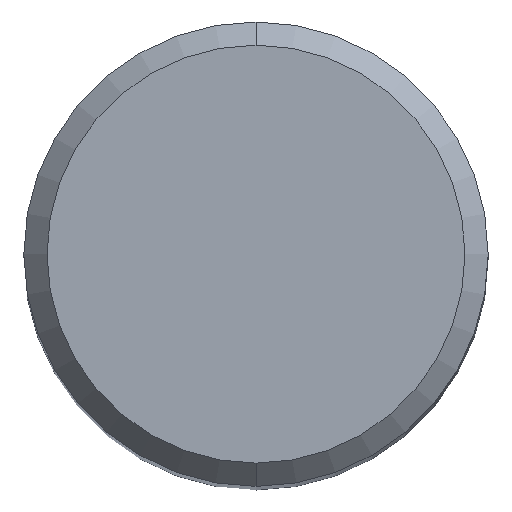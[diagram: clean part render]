
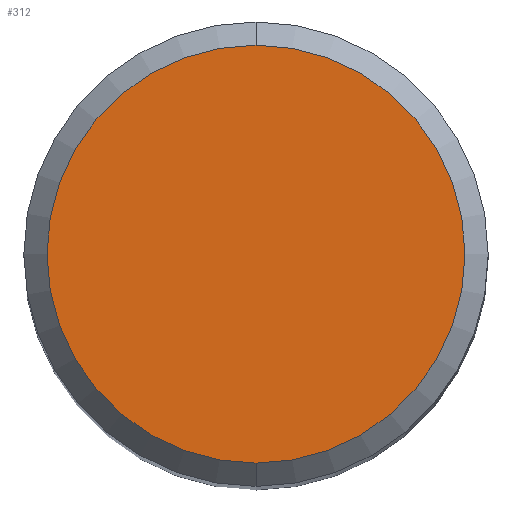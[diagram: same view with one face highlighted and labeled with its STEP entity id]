
A CAD part, top view. The second image highlights one B-rep face of the part: STEP entity #312.
In plain terms, the highlighted planar face has unit normal (0, 0, 1).
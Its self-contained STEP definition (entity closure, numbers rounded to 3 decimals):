
#312=ADVANCED_FACE('',(#659),#660,.T.);
#344=VERTEX_POINT('',#697);
#364=EDGE_CURVE('',#384,#344,#720,.T.);
#366=EDGE_CURVE('',#344,#384,#722,.T.);
#384=VERTEX_POINT('',#740);
#659=FACE_OUTER_BOUND('',#1160,.T.);
#660=PLANE('',#1161);
#697=CARTESIAN_POINT('',(0.0,3.6,0.0));
#720=CIRCLE('',#1237,3.6);
#722=CIRCLE('',#1240,3.6);
#740=CARTESIAN_POINT('',(0.,-3.6,0.0));
#1160=EDGE_LOOP('',(#1732,#1733));
#1161=AXIS2_PLACEMENT_3D('',#1734,#1735,#1736);
#1237=AXIS2_PLACEMENT_3D('',#1822,#1823,#1824);
#1240=AXIS2_PLACEMENT_3D('',#1825,#1826,#1827);
#1732=ORIENTED_EDGE('',*,*,#366,.F.);
#1733=ORIENTED_EDGE('',*,*,#364,.F.);
#1734=CARTESIAN_POINT('',(0.0,1.8,0.0));
#1735=DIRECTION('',(-0.0,0.0,1.0));
#1736=DIRECTION('',(0.0,-1.0,0.0));
#1822=CARTESIAN_POINT('',(0.0,0.0,0.0));
#1823=DIRECTION('',(0.0,0.0,-1.0));
#1824=DIRECTION('',(0.0,1.0,0.0));
#1825=CARTESIAN_POINT('',(0.0,0.0,0.0));
#1826=DIRECTION('',(0.0,0.0,-1.0));
#1827=DIRECTION('',(0.0,1.0,0.0));
